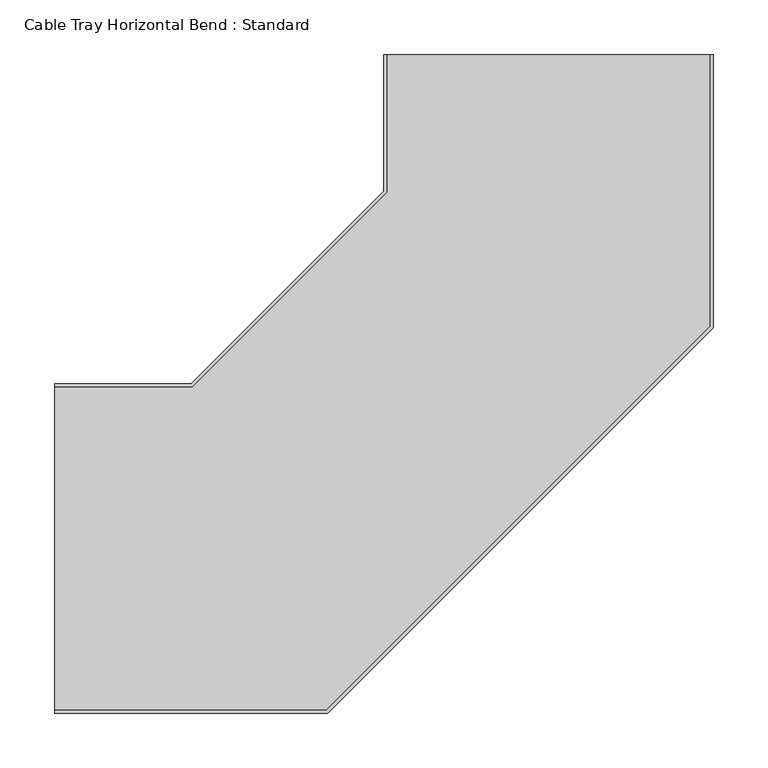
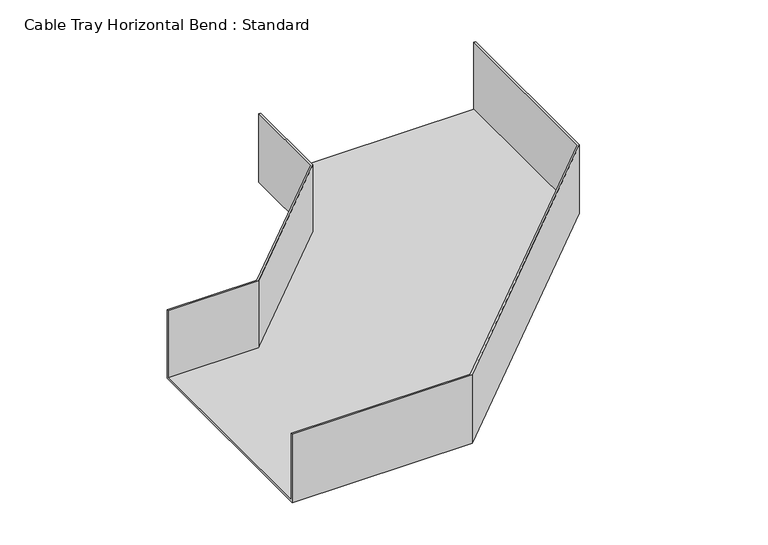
"""IFC4 building model written with IfcOpenShell, lengths in millimetres: cable carrier fitting geometry, Cable Tray Horizontal Bend : Standard."""

import ifcopenshell
import ifcopenshell.guid

model = None  # the IFC model being written
_history = None  # IfcOwnerHistory: only IFC2X3 demands one
_inside = {}  # id of a spatial element -> (the spatial element, [elements in it])
_under = {}  # id of a project, library or spatial element -> (it, [spatial elements below it])
_declared = {}  # id of a project -> (the project, [libraries it declares])
_typed = {}  # id of a type object -> (the type object, [elements of that type])
_made_of = {}  # id of a material, layer set ... -> (it, [elements and type objects made of it])


def new_model(schema):
    """Start an empty IFC model of exactly this schema.

    Asked for "IFC4X3", IfcOpenShell would pick the latest addendum, in which some entities
    have other attributes; the version numbers below select the first issue.
    IFC2X3 requires an IfcOwnerHistory on every rooted entity: one is made here for all.
    """
    global model, _history
    if schema == "IFC4X3":
        model = ifcopenshell.file(schema_version=(4, 3, 0, 0))
    else:
        model = ifcopenshell.file(schema=schema)
    _inside.clear()
    _under.clear()
    _declared.clear()
    _typed.clear()
    _made_of.clear()
    _history = None
    if model.schema == "IFC2X3":
        org = make("IfcOrganization", Name="unknown")
        user = make(
            "IfcPersonAndOrganization",
            ThePerson=make("IfcPerson", FamilyName="unknown"),
            TheOrganization=org,
        )
        app = make(
            "IfcApplication",
            ApplicationDeveloper=org,
            Version="unknown",
            ApplicationFullName="unknown",
            ApplicationIdentifier="unknown",
        )
        _history = make(
            "IfcOwnerHistory",
            OwningUser=user,
            OwningApplication=app,
            ChangeAction="ADDED",
            CreationDate=0,
        )
    return model


def make(cls, **values):
    """One entity of the class cls with the attributes given. An attribute that is None is left unset."""
    return model.create_entity(
        cls, **{name: value for name, value in values.items() if value is not None}
    )


def rooted(cls, **values):
    """An entity with a GlobalId (a new one), such as an element, a storey or a relation."""
    return make(cls, GlobalId=ifcopenshell.guid.new(), OwnerHistory=_history, **values)


def si_unit(unit_type, name, prefix=None):
    """IfcSIUnit, for example si_unit("LENGTHUNIT", "METRE", prefix="MILLI")."""
    return make("IfcSIUnit", UnitType=unit_type, Prefix=prefix, Name=name)


def assignment(units):
    """IfcUnitAssignment: the units of a project."""
    return None if units is None else make("IfcUnitAssignment", Units=units)


def point(xyz):
    """IfcCartesianPoint."""
    return None if xyz is None else make("IfcCartesianPoint", Coordinates=xyz)


def direction(xyz):
    """IfcDirection."""
    return None if xyz is None else make("IfcDirection", DirectionRatios=xyz)


def frame(location, z_axis=None, x_axis=None):
    """IfcAxis2Placement3D, a coordinate frame: its origin and axes. An axis left out is left unset."""
    return make(
        "IfcAxis2Placement3D",
        Location=point(location),
        Axis=direction(z_axis),
        RefDirection=direction(x_axis),
    )


def origin():
    """The frame at (0, 0, 0) with its axes left unset."""
    return frame((0.0, 0.0, 0.0))


def place(relative_to, where):
    """IfcLocalPlacement: puts the frame where relative to a parent placement (None: the world)."""
    return make(
        "IfcLocalPlacement", PlacementRelTo=relative_to, RelativePlacement=where
    )


def context(
    kind, dimensions, precision=None, world=None, true_north=None, identifier=None
):
    """IfcGeometricRepresentationContext, for example the 3D "Model" context."""
    return make(
        "IfcGeometricRepresentationContext",
        ContextIdentifier=identifier,
        ContextType=kind,
        CoordinateSpaceDimension=dimensions,
        Precision=precision,
        WorldCoordinateSystem=world,
        TrueNorth=true_north,
    )


def project(units=None, contexts=None):
    """IfcProject with its units and contexts."""
    return rooted(
        "IfcProject",
        Name="project",
        RepresentationContexts=contexts,
        UnitsInContext=assignment(units),
    )


def spatial(cls, under=None, at=None, **own):
    """A site, building, storey or space (cls), placed at a placement, below another one or the project."""
    s = rooted(cls, ObjectPlacement=at, **own)
    if under is not None:
        _under.setdefault(under.id(), (under, []))[1].append(s)
    return s


def faces_of(points, faces, orient=None, outer=None):
    """IfcFace entities. A face is a list of loops; a loop is a list of indices into points, from 0.

    orient and outer hold one flag for each loop. By default every Orientation is true, the
    first loop of a face is its IfcFaceOuterBound and the others are IfcFaceBound.
    """
    made = []
    for i, loops in enumerate(faces):
        bounds = []
        for j, loop in enumerate(loops):
            is_outer = j == 0 if outer is None else outer[i][j]
            bounds.append(
                make(
                    "IfcFaceOuterBound" if is_outer else "IfcFaceBound",
                    Bound=make("IfcPolyLoop", Polygon=[points[k] for k in loop]),
                    Orientation=True if orient is None else orient[i][j],
                )
            )
        made.append(make("IfcFace", Bounds=bounds))
    return made


def faceted_brep(points, faces, orient=None, outer=None, voids=None):
    """IfcFacetedBrep: a solid bounded by flat faces; with voids (closed shells), ...WithVoids."""
    shared = [point(p) for p in points]
    hull = make("IfcClosedShell", CfsFaces=faces_of(shared, faces, orient, outer))
    if voids is None:
        return make("IfcFacetedBrep", Outer=hull)
    return make(
        "IfcFacetedBrepWithVoids",
        Outer=hull,
        Voids=[
            make(cls, CfsFaces=faces_of(shared, fs, o, b)) for cls, fs, o, b in voids
        ],
    )


def shape(context_of_items, identifier, shape_type, items):
    """IfcShapeRepresentation: the items that make up one representation, for example the "Body"."""
    return make(
        "IfcShapeRepresentation",
        ContextOfItems=context_of_items,
        RepresentationIdentifier=identifier,
        RepresentationType=shape_type,
        Items=items,
    )


def source(mapping_origin, context_of_items, identifier, shape_type, items):
    """IfcRepresentationMap: a shape defined once, which mapped items show again and again."""
    return make(
        "IfcRepresentationMap",
        MappingOrigin=mapping_origin,
        MappedRepresentation=shape(context_of_items, identifier, shape_type, items),
    )


def transform(
    local_origin,
    x_axis=None,
    y_axis=None,
    z_axis=None,
    scale=None,
    scale2=None,
    scale3=None,
    uniform=True,
):
    """IfcCartesianTransformationOperator3D, or its non-uniform kind. x_axis, y_axis, z_axis: its Axis1, 2, 3."""
    if uniform:
        return make(
            "IfcCartesianTransformationOperator3D",
            Axis1=direction(x_axis),
            Axis2=direction(y_axis),
            LocalOrigin=point(local_origin),
            Scale=scale,
            Axis3=direction(z_axis),
        )
    return make(
        "IfcCartesianTransformationOperator3DnonUniform",
        Axis1=direction(x_axis),
        Axis2=direction(y_axis),
        LocalOrigin=point(local_origin),
        Scale=scale,
        Axis3=direction(z_axis),
        Scale2=scale2,
        Scale3=scale3,
    )


def mapped(mapping_source, mapping_target):
    """IfcMappedItem: shows the shape of a source again, moved by a transform."""
    return make(
        "IfcMappedItem", MappingSource=mapping_source, MappingTarget=mapping_target
    )


def made_of(thing, what):
    """Note that an element or type object is made of a material, layer set ...; save() writes the relation."""
    if what is not None:
        _made_of.setdefault(what.id(), (what, []))[1].append(thing)
    return thing


def element(
    cls,
    number,
    at=None,
    inside=None,
    cuts=None,
    type_object=None,
    material=None,
    context=None,
    identifier="Body",
    shape_type=None,
    held_by="IfcProductDefinitionShape",
    body=None,
    shapes=None,
    **own,
):
    """One element of the class cls, such as IfcWall. Its Tag is "e" and its number.

    at: its placement. inside: the storey or other place that contains it. cuts: it is an
    opening in that element (IfcRelVoidsElement). A single representation is given by context,
    identifier, shape_type and body (its items); several are given by shapes. held_by: the class
    of the entity that holds the representations. save() writes the other relations.
    """
    e = rooted(cls, Tag="e%d" % number, ObjectPlacement=at, **own)
    if body is not None:
        shapes = [shape(context, identifier, shape_type, body)]
    if shapes is not None:
        e.Representation = make(held_by, Representations=shapes)
    if inside is not None:
        _inside.setdefault(inside.id(), (inside, []))[1].append(e)
    if cuts is not None:
        rooted(
            "IfcRelVoidsElement", RelatingBuildingElement=cuts, RelatedOpeningElement=e
        )
    if type_object is not None:
        _typed.setdefault(type_object.id(), (type_object, []))[1].append(e)
    return made_of(e, material)


def aggregate(whole, parts):
    """IfcRelAggregates: a whole, such as a stair, and the parts it consists of."""
    return rooted("IfcRelAggregates", RelatingObject=whole, RelatedObjects=parts)


def save(model, path):
    """Write the relations noted so far, then the file.

    IfcRelAggregates (storeys below a building ...), IfcRelContainedInSpatialStructure (elements
    in a storey), IfcRelDefinesByType, IfcRelAssociatesMaterial and IfcRelDeclares: one each for
    every whole, place, type object, material and project.
    """
    for whole, parts in _under.values():
        aggregate(whole, parts)
    for where, things in _inside.values():
        rooted(
            "IfcRelContainedInSpatialStructure",
            RelatedElements=things,
            RelatingStructure=where,
        )
    for kind, things in _typed.values():
        rooted("IfcRelDefinesByType", RelatedObjects=things, RelatingType=kind)
    for what, things in _made_of.values():
        rooted("IfcRelAssociatesMaterial", RelatedObjects=things, RelatingMaterial=what)
    for by, libraries in _declared.values():
        rooted("IfcRelDeclares", RelatingContext=by, RelatedDefinitions=libraries)
    model.write(path)


def cable_tray_horizontal_bend_standard_e2de60b4(model_context):
    return source(origin(), model_context, "Body", "Brep", [
        faceted_brep([(-450.0, -150.0, -50.0), (-450.0, -150.0, 50.0), (-450.0, -147.46, 50.0), (-450.0, -147.46, -47.46), (-450.0, 147.46, -47.46), (-450.0, 147.46, 50.0), (-450.0, 150.0, 50.0), (-450.0, 150.0, -50.0), (150.0, 450.0, -50.0), (-150.0, 450.0, -50.0), (-150.0, 450.0, 50.0), (-147.46, 450.0, 50.0), (-147.46, 450.0, -47.46), (147.46, 450.0, -47.46), (147.46, 450.0, 50.0), (150.0, 450.0, 50.0), (-201.4718626, -150.0, -50.0), (-201.4718626, -150.0, 50.0), (150.0, 201.4718626, 50.0), (147.46, 202.523965, 50.0), (-202.523965, -147.46, 50.0), (-202.523965, -147.46, -47.46), (147.46, 202.523965, -47.46), (-147.46, 324.6838288, -47.46), (-324.6838288, 147.46, -47.46), (-324.6838288, 147.46, 50.0), (-147.46, 324.6838288, 50.0), (-150.0, 325.7359313, 50.0), (-325.7359313, 150.0, 50.0), (-325.7359313, 150.0, -50.0), (-150.0, 325.7359313, -50.0), (150.0, 201.4718626, -50.0)], [[[0, 1, 2, 3, 4, 5, 6, 7]], [[8, 9, 10, 11, 12, 13, 14, 15]], [[1, 0, 16, 17]], [[2, 1, 17, 18, 15, 14, 19, 20]], [[3, 2, 20, 21]], [[4, 3, 21, 22, 13, 12, 23, 24]], [[5, 4, 24, 25]], [[6, 5, 25, 26, 11, 10, 27, 28]], [[7, 6, 28, 29]], [[0, 7, 29, 30, 9, 8, 31, 16]], [[17, 16, 31, 18]], [[21, 20, 19, 22]], [[25, 24, 23, 26]], [[29, 28, 27, 30]], [[18, 31, 8, 15]], [[22, 19, 14, 13]], [[26, 23, 12, 11]], [[30, 27, 10, 9]]]),
    ])


if __name__ == "__main__":
    model = new_model("IFC4")
    model_context = context("Model", 3, world=origin())
    ifc_project = project(units=[si_unit("LENGTHUNIT", "METRE", prefix="MILLI")], contexts=[model_context])
    site = spatial("IfcSite", under=ifc_project)
    building = spatial("IfcBuilding", under=site)
    placement = place(None, origin())
    cable_tray_horizontal_bend_standard_shape = cable_tray_horizontal_bend_standard_e2de60b4(model_context)
    element("IfcCableCarrierFitting", 1, ObjectType="Cable Tray Horizontal Bend : Standard", at=placement, inside=building, context=model_context, shape_type="MappedRepresentation", body=[
        mapped(cable_tray_horizontal_bend_standard_shape, transform((0.0, 0.0, 0.0), x_axis=(1.0, 0.0, 0.0), y_axis=(0.0, 1.0, 0.0), z_axis=(0.0, 0.0, 1.0))),
    ])
    save(model, "model.ifc")
